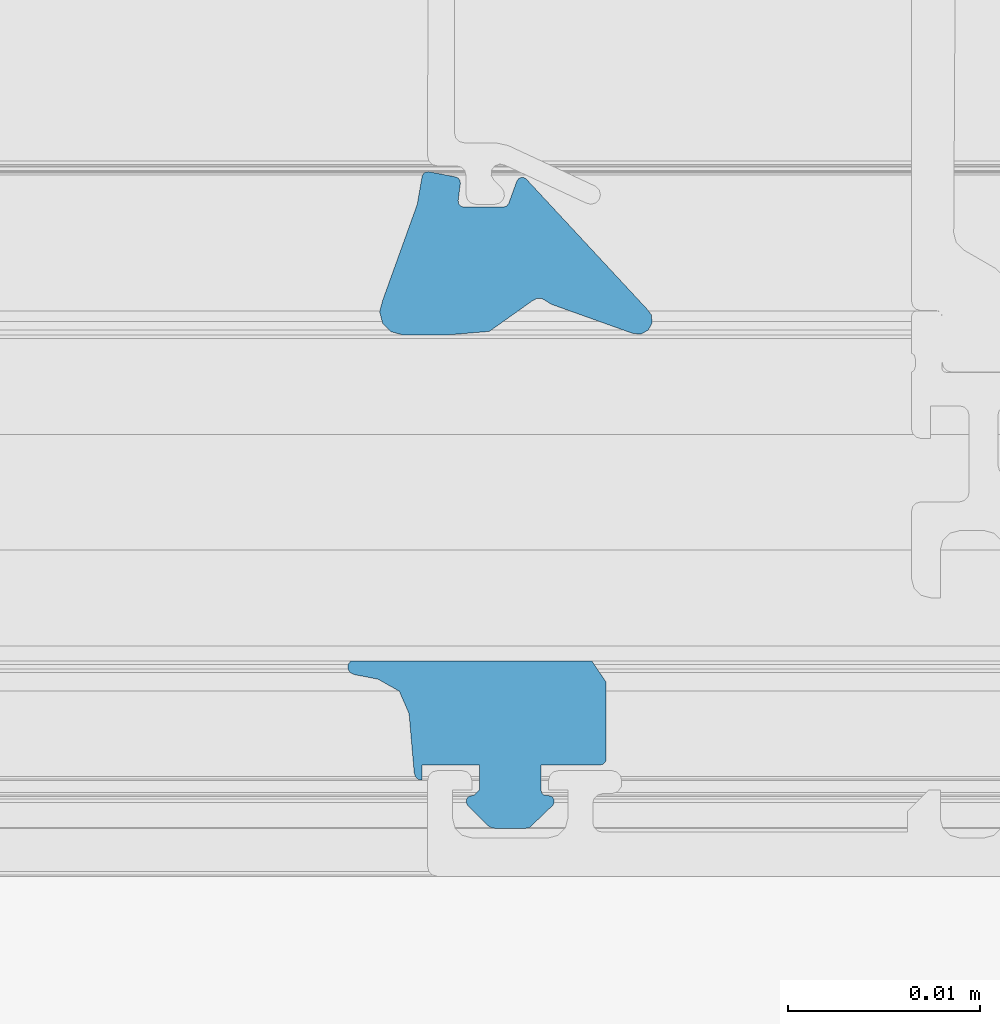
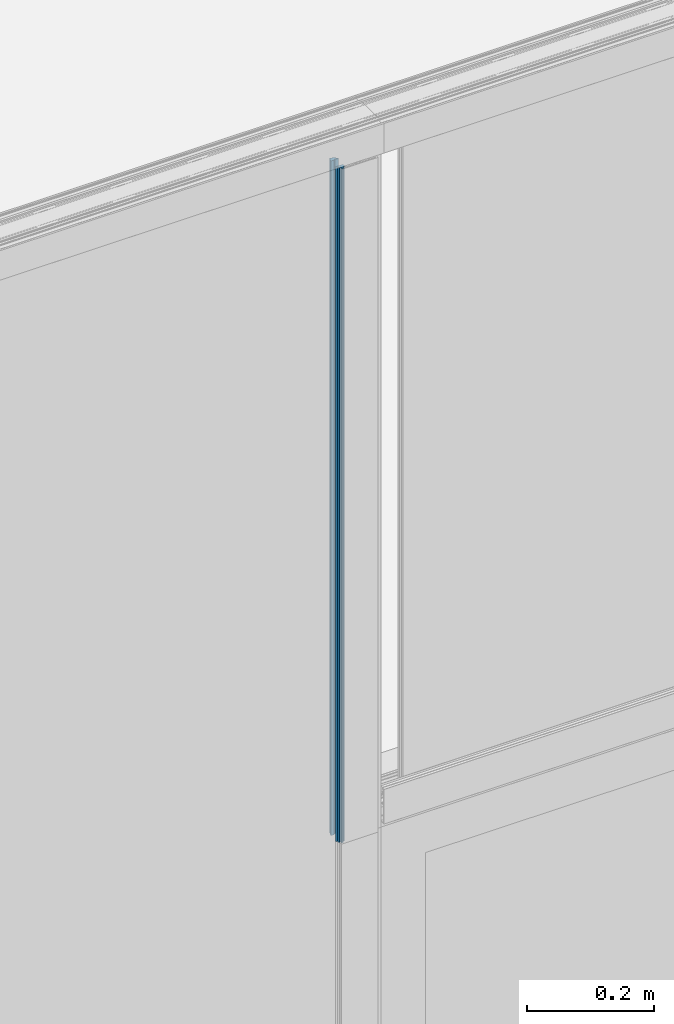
# One storey, part 19 of 69: 1 building element part, 2 elements without a shape of their own.
"""IFC2X3 building model written with IfcOpenShell, lengths in millimetres."""

from ifc_helpers import new_model, entity, si_unit, converted_unit, derived_unit, money_unit, direction, frame, origin_with_axes, place, context, subcontext, project, spatial, faceted_brep, material, type_object, element, aggregate, save


model = new_model("IFC2X3")

# Units and contexts
model_context = context("Model", 3, precision=0.01, world=origin_with_axes(), true_north=direction((0.0, 1.0)))
body_context = subcontext(model_context, "Body", "Model", "MODEL_VIEW")
ifc_project = project(units=[si_unit("LENGTHUNIT", "METRE", prefix="MILLI"), si_unit("AREAUNIT", "SQUARE_METRE"), si_unit("VOLUMEUNIT", "CUBIC_METRE"), converted_unit("PLANEANGLEUNIT", "DEGREE", entity("IfcPlaneAngleMeasure", 0.0174532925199), si_unit("PLANEANGLEUNIT", "RADIAN"), dimensions=[0, 0, 0, 0, 0, 0, 0]), si_unit("SOLIDANGLEUNIT", "STERADIAN"), money_unit("EUR"), converted_unit("TIMEUNIT", "Year", entity("IfcTimeMeasure", 31556926.0), si_unit("TIMEUNIT", "SECOND"), dimensions=[0, 0, 1, 0, 0, 0, 0]), si_unit("MASSUNIT", "GRAM", prefix="KILO"), si_unit("THERMODYNAMICTEMPERATUREUNIT", "DEGREE_CELSIUS"), si_unit("LUMINOUSINTENSITYUNIT", "LUMEN"), si_unit("ENERGYUNIT", "JOULE", prefix="MEGA"), derived_unit("THERMALCONDUCTANCEUNIT", [(si_unit("POWERUNIT", "WATT"), 1), (si_unit("LENGTHUNIT", "METRE"), -1), (si_unit("THERMODYNAMICTEMPERATUREUNIT", "KELVIN"), -1)]), derived_unit("SPECIFICHEATCAPACITYUNIT", [(si_unit("ENERGYUNIT", "JOULE"), 1), (si_unit("MASSUNIT", "GRAM", prefix="KILO"), -1), (si_unit("THERMODYNAMICTEMPERATUREUNIT", "KELVIN"), -1)]), derived_unit("MASSDENSITYUNIT", [(si_unit("MASSUNIT", "GRAM", prefix="KILO"), 1), (si_unit("VOLUMEUNIT", "CUBIC_METRE"), -1)])], contexts=[model_context])

# Site, building, storey
site_placement = place(None, origin_with_axes())
site = spatial("IfcSite", under=ifc_project, at=site_placement, Name="Puškini 31, Narva", CompositionType="ELEMENT")
building_placement = place(site_placement, origin_with_axes())
building = spatial("IfcBuilding", under=site, at=building_placement, Name="Narva Riigigümnaasium", CompositionType="ELEMENT")
storey_placement = place(building_placement, origin_with_axes())
storey = spatial("IfcBuildingStorey", under=building, at=storey_placement, Name="1.korrus 0.00", CompositionType="ELEMENT", Elevation=0.0)

# Curtain wall, member, building element part
curtain_wall_type = type_object("IfcCurtainWallType", Name="Curtain Wall Type", PredefinedType="NOTDEFINED")
curtain_wall_placement = place(storey_placement, frame((18229.9603698, 152620.000001, -0.397158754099), z_axis=(0.0, 0.0, 1.0), x_axis=(1.0, 0.0, 0.0)))
curtain_wall = element("IfcCurtainWall", 1, at=curtain_wall_placement, inside=storey, type_object=curtain_wall_type, Name="G-KLF-01-1")
member_type = type_object("IfcMemberType", Name="82 x 45", PredefinedType="MULLION")
member_placement = place(curtain_wall_placement, frame((-941.130133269, 0.0, 2400.00003439), z_axis=(-2.98693397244e-10, 0.0, 1.0), x_axis=(1.0, 0.0, 2.98693397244e-10)))
member = element("IfcMember", 2, at=member_placement, type_object=member_type, Name="G-SKLF-01-raam", ObjectType="MULLION")
aggregate(curtain_wall, [member])
ifc_material = material(Name="Membraan - Veekindel")
building_element_part_placement = place(member_placement, origin_with_axes())
building_element_part = element("IfcBuildingElementPart", 3, at=building_element_part_placement, material=ifc_material, Name="Membraan - Veekindel", context=body_context, shape_type="Brep", body=[
    faceted_brep([(-72.7204882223, -15.0100099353, 2.17212914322e-08), (-72.7204878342, -15.0100099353, 1299.23237894), (-74.9898923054, -16.6230552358, 1299.23237894), (-74.9898926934, -16.6230552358, 2.23989715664e-08), (-72.5011668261, -14.8999349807, 2.16555662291e-08), (-72.501166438, -14.8999349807, 1299.23237894), (-72.2558874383, -14.9074571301, 1299.23237894), (-72.0437233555, -15.0307647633, 1299.23237894), (-71.753699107, -15.2121692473, 1299.23237894), (-67.4982923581, -16.7341218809, 1299.23237894), (-67.0740698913, -16.7580150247, 1299.23237894), (-66.7049449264, -16.5475813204, 1299.23237894), (-66.5093920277, -16.1703616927, 1299.23237894), (-66.5501759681, -15.7474287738, 1299.23237894), (-66.8142067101, -15.4145273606, 1299.23237894), (-73.0645586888, -8.68581760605, 1299.23237894), (-73.192689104, -8.61180126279, 1299.23237894), (-73.3406148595, -8.60808734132, 1299.23237894), (-73.4722981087, -8.67558063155, 1299.23237894), (-73.5556580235, -8.79783833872, 1299.23237894), (-73.9761208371, -9.95305042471, 1299.23237894), (-74.0859556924, -10.096189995, 1299.23237894), (-74.2580286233, -10.1504443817, 1299.23237894), (-76.3123570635, -10.1504443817, 1299.23237894), (-76.4731255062, -10.1037298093, 1299.23237894), (-76.5838257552, -9.97813443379, 1299.23237894), (-76.6099823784, -9.81277248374, 1299.23237894), (-76.4957455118, -8.91024871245, 1299.23237894), (-76.5142918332, -8.76250903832, 1299.23237894), (-76.601587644, -8.64188392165, 1299.23237894), (-76.7361281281, -8.57808865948, 1299.23237894), (-78.1361281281, -8.30595622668, 1299.23237894), (-78.2917476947, -8.3170330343, 1299.23237894), (-78.4207616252, -8.40475732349, 1299.23237894), (-78.4882786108, -8.54540440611, 1299.23237894), (-78.7418648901, -10.0036443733, 1299.23237894), (-80.5405108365, -15.001346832, 1299.23237894), (-80.7012801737, -15.6006926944, 1299.23237894), (-80.5411643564, -16.2002134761, 1299.23237894), (-80.1029790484, -16.6395947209, 1299.23237894), (-79.5038969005, -16.8013439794, 1299.23237894), (-77.1927255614, -16.806401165, 1299.23237894), (-77.1927259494, -16.806401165, 2.30571117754e-08), (-79.5038972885, -16.8013439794, 2.37472264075e-08), (-80.1029794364, -16.6395947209, 2.39261943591e-08), (-80.5411647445, -16.2002134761, 2.4057200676e-08), (-80.7012805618, -15.6006926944, 2.41047182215e-08), (-80.5405112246, -15.001346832, 2.40567565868e-08), (-78.7418652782, -10.0036443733, 2.35198527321e-08), (-78.4882789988, -8.54540440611, 2.34439134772e-08), (-78.4207620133, -8.40475732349, 2.34239294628e-08), (-78.2917480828, -8.3170330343, 2.33852937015e-08), (-78.1361285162, -8.30595622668, 2.33386643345e-08), (-76.7361285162, -8.57808865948, 2.29203322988e-08), (-76.601588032, -8.64188392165, 2.28803642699e-08), (-76.5142922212, -8.76250903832, 2.28541630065e-08), (-76.4957458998, -8.91024871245, 2.2848833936e-08), (-76.6099827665, -9.81277248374, 2.28830288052e-08), (-76.5838261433, -9.97813443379, 2.28750351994e-08), (-76.4731258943, -10.1037298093, 2.28421725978e-08), (-76.3123574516, -10.1504443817, 2.2793766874e-08), (-74.2580290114, -10.1504443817, 2.21804796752e-08), (-74.0859560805, -10.096189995, 2.21289653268e-08), (-73.9761212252, -9.95305042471, 2.20961027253e-08), (-73.5556584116, -8.79783833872, 2.19704254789e-08), (-73.4722984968, -8.67558063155, 2.19455564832e-08), (-73.3406152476, -8.60808734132, 2.19064766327e-08), (-73.192689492, -8.61180126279, 2.18620677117e-08), (-73.0645590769, -8.68581760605, 2.18238760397e-08), (-66.8142070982, -15.4145273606, 1.99569250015e-08), (-66.5501763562, -15.7474287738, 1.98778771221e-08), (-66.5093924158, -16.1703616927, 1.98658867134e-08), (-66.7049453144, -16.5475813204, 1.99245064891e-08), (-67.0740702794, -16.7580150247, 2.00346406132e-08), (-67.4982927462, -16.7341218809, 2.0161206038e-08), (-71.7536994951, -15.2121692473, 2.14321893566e-08), (-72.0437237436, -15.0307647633, 2.15187867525e-08), (-72.2558878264, -14.9074571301, 2.15822915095e-08)], [[[0, 1, 2, 3]], [[4, 5, 1, 0]], [[1, 5, 6, 7, 8, 9, 10, 11, 12, 13, 14, 15, 16, 17, 18, 19, 20, 21, 22, 23, 24, 25, 26, 27, 28, 29, 30, 31, 32, 33, 34, 35, 36, 37, 38, 39, 40, 41, 2]], [[3, 2, 41, 42]], [[0, 3, 42, 43, 44, 45, 46, 47, 48, 49, 50, 51, 52, 53, 54, 55, 56, 57, 58, 59, 60, 61, 62, 63, 64, 65, 66, 67, 68, 69, 70, 71, 72, 73, 74, 75, 76, 77, 4]], [[77, 6, 5, 4]], [[76, 7, 6, 77]], [[75, 8, 7, 76]], [[74, 9, 8, 75]], [[73, 10, 9, 74]], [[72, 11, 10, 73]], [[71, 12, 11, 72]], [[70, 13, 12, 71]], [[69, 14, 13, 70]], [[68, 15, 14, 69]], [[67, 16, 15, 68]], [[66, 17, 16, 67]], [[65, 18, 17, 66]], [[64, 19, 18, 65]], [[63, 20, 19, 64]], [[62, 21, 20, 63]], [[61, 22, 21, 62]], [[60, 23, 22, 61]], [[59, 24, 23, 60]], [[58, 25, 24, 59]], [[57, 26, 25, 58]], [[56, 27, 26, 57]], [[55, 28, 27, 56]], [[54, 29, 28, 55]], [[53, 30, 29, 54]], [[52, 31, 30, 53]], [[51, 32, 31, 52]], [[50, 33, 32, 51]], [[49, 34, 33, 50]], [[48, 35, 34, 49]], [[47, 36, 35, 48]], [[46, 37, 36, 47]], [[45, 38, 37, 46]], [[44, 39, 38, 45]], [[43, 40, 39, 44]], [[42, 41, 40, 43]]]),
    faceted_brep([(-71.6876987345, -41.3119145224, 2.14126494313e-08), (-71.6876983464, -41.3119145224, 1299.23237895), (-72.8904306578, -42.4618935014, 1299.23237895), (-72.8904310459, -42.4618935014, 2.17719176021e-08), (-71.6057623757, -41.1582990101, 2.13882245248e-08), (-71.6057619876, -41.1582990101, 1299.23237895), (-71.6229353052, -40.9850466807, 1299.23237895), (-71.7334346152, -40.8505059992, 1299.23237895), (-71.9000456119, -40.799988, 1299.23237895), (-72.0000396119, -40.799988, 1299.23237895), (-72.1500396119, -40.7597956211, 1299.23237895), (-72.2598472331, -40.649988, 1299.23237895), (-72.3000396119, -40.499988, 1299.23237895), (-72.3000396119, -39.200012, 1299.23237895), (-71.3000396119, -39.2000007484, 1299.23237895), (-69.2000034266, -39.2000007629, 1299.23237895), (-69.0500176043, -39.159812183, 1299.23237895), (-68.940220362, -39.0500149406, 1299.23237895), (-68.900031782, -38.9000291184, 1299.23237895), (-68.8997550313, -34.9006000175, 1299.23237895), (-69.6471372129, -33.7902637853, 1299.23237895), (-82.2108937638, -33.7902637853, 1299.23237895), (-82.3423776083, -33.9722990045, 1299.23237895), (-82.3536955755, -34.1965683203, 1299.23237895), (-82.2412062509, -34.3909158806, 1299.23237895), (-82.0411016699, -34.4928127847, 1299.23237895), (-80.7800218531, -34.7379988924, 1299.23237895), (-79.6755024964, -35.3629012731, 1299.23237895), (-79.1693609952, -36.5266395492, 1299.23237895), (-78.9000320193, -39.6000097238, 1299.23237895), (-78.8464366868, -39.8000230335, 1299.23237895), (-78.7000157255, -39.9464425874, 1299.23237895), (-78.5000019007, -40.0000359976, 1299.23237895), (-78.5000019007, -39.2000007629, 1299.23237895), (-76.5000206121, -39.200012, 1299.23237895), (-75.5000206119, -39.200012, 1299.23237895), (-75.5000206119, -40.499988, 1299.23237895), (-75.8000206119, -40.799988, 1299.23237895), (-75.9000169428, -40.799988, 1299.23237895), (-76.0666564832, -40.8505228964, 1299.23237895), (-76.1771581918, -40.9851032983, 1299.23237895), (-76.1942960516, -41.1583915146, 1299.23237895), (-76.1122966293, -41.3120098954, 1299.23237895), (-75.0716102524, -42.353428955, 1299.23237895), (-74.9093554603, -42.461906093, 1299.23237895), (-74.7179324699, -42.5, 1299.23237895), (-73.0818840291, -42.5, 1299.23237895), (-73.0818844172, -42.5, 2.18292051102e-08), (-74.717932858, -42.5, 2.2317703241e-08), (-74.9093558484, -42.461906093, 2.23749907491e-08), (-75.0716106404, -42.353428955, 2.2423396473e-08), (-76.1122970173, -41.3120098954, 2.27342589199e-08), (-76.1942964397, -41.1583915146, 2.27586838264e-08), (-76.1771585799, -40.9851032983, 2.27537988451e-08), (-76.0666568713, -40.8505228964, 2.27204921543e-08), (-75.9000173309, -40.799988, 2.26707541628e-08), (-75.800021, -40.799988, 2.26410001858e-08), (-75.500021, -40.499988, 2.25512941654e-08), (-75.500021, -39.200012, 2.25512941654e-08), (-76.5000210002, -39.200012, 2.28501662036e-08), (-78.5000022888, -39.2000007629, 2.34474661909e-08), (-78.5000022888, -40.0000359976, 2.34474661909e-08), (-78.7000161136, -39.9464425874, 2.3506974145e-08), (-78.8464370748, -39.8000230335, 2.35509389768e-08), (-78.9000324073, -39.6000097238, 2.35669261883e-08), (-79.1693613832, -36.5266395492, 2.36473063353e-08), (-79.6755028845, -35.3629012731, 2.37982966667e-08), (-80.7800222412, -34.7379988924, 2.41282549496e-08), (-82.041102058, -34.4928127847, 2.45052866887e-08), (-82.2412066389, -34.3909158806, 2.45647946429e-08), (-82.3536959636, -34.1965683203, 2.45985454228e-08), (-82.3423779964, -33.9722990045, 2.45949927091e-08), (-82.2108941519, -33.7902637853, 2.45559128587e-08), (-69.647137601, -33.7902637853, 2.08029149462e-08), (-68.8997554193, -34.9006000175, 2.05799821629e-08), (-68.9000321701, -38.9000291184, 2.05799821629e-08), (-68.9402207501, -39.0500149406, 2.05919725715e-08), (-69.0500179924, -39.159812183, 2.06248351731e-08), (-69.2000038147, -39.2000007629, 2.06696881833e-08), (-71.30004, -39.2000007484, 2.12967421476e-08), (-72.30004, -39.200012, 2.15956141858e-08), (-72.30004, -40.499988, 2.15956141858e-08), (-72.2598476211, -40.649988, 2.15836237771e-08), (-72.15004, -40.7597956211, 2.15507611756e-08), (-72.00004, -40.799988, 2.15059081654e-08), (-71.900046, -40.799988, 2.14761541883e-08), (-71.7334350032, -40.8505059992, 2.14264161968e-08), (-71.6229356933, -40.9850466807, 2.13931095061e-08)], [[[0, 1, 2, 3]], [[4, 5, 1, 0]], [[1, 5, 6, 7, 8, 9, 10, 11, 12, 13, 14, 15, 16, 17, 18, 19, 20, 21, 22, 23, 24, 25, 26, 27, 28, 29, 30, 31, 32, 33, 34, 35, 36, 37, 38, 39, 40, 41, 42, 43, 44, 45, 46, 2]], [[3, 2, 46, 47]], [[0, 3, 47, 48, 49, 50, 51, 52, 53, 54, 55, 56, 57, 58, 59, 60, 61, 62, 63, 64, 65, 66, 67, 68, 69, 70, 71, 72, 73, 74, 75, 76, 77, 78, 79, 80, 81, 82, 83, 84, 85, 86, 87, 4]], [[87, 6, 5, 4]], [[86, 7, 6, 87]], [[85, 8, 7, 86]], [[84, 9, 8, 85]], [[83, 10, 9, 84]], [[82, 11, 10, 83]], [[81, 12, 11, 82]], [[80, 13, 12, 81]], [[79, 14, 13, 80]], [[78, 15, 14, 79]], [[77, 16, 15, 78]], [[76, 17, 16, 77]], [[75, 18, 17, 76]], [[74, 19, 18, 75]], [[73, 20, 19, 74]], [[72, 21, 20, 73]], [[71, 22, 21, 72]], [[70, 23, 22, 71]], [[69, 24, 23, 70]], [[68, 25, 24, 69]], [[67, 26, 25, 68]], [[66, 27, 26, 67]], [[65, 28, 27, 66]], [[64, 29, 28, 65]], [[63, 30, 29, 64]], [[62, 31, 30, 63]], [[61, 32, 31, 62]], [[60, 33, 32, 61]], [[59, 34, 33, 60]], [[58, 35, 34, 59]], [[57, 36, 35, 58]], [[56, 37, 36, 57]], [[55, 38, 37, 56]], [[54, 39, 38, 55]], [[53, 40, 39, 54]], [[52, 41, 40, 53]], [[51, 42, 41, 52]], [[50, 43, 42, 51]], [[49, 44, 43, 50]], [[48, 45, 44, 49]], [[47, 46, 45, 48]]]),
])
aggregate(member, [building_element_part])

save(model, "model.ifc")
